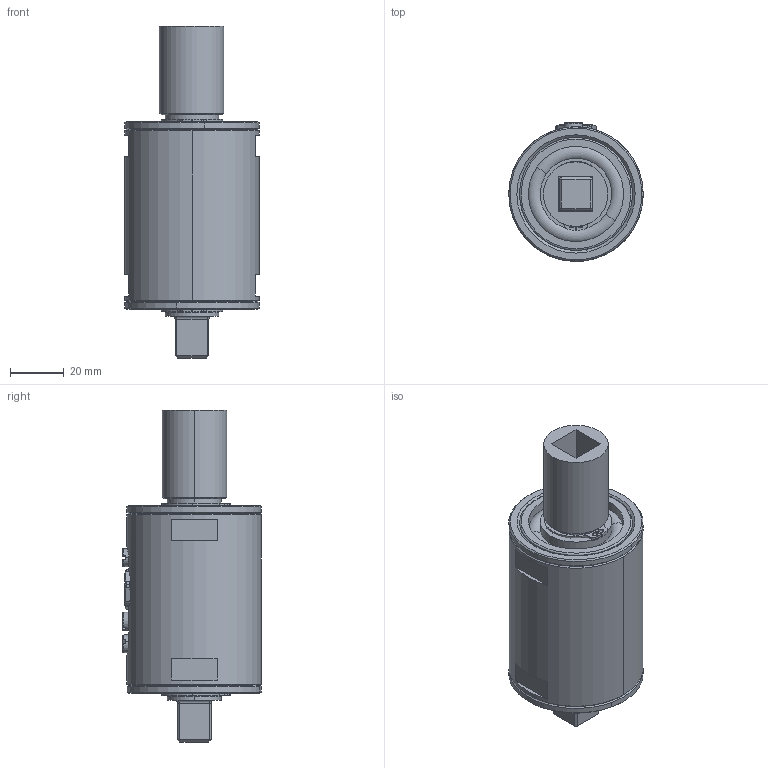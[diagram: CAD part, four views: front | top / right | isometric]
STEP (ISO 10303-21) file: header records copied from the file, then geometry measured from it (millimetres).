
FILE_DESCRIPTION (( 'STEP AP203' ), '1' );
FILE_NAME ('400006-ATS010_175Nm_20mm-Vierkant.STEP', '2017-02-20T10:23:42', ( '' ), ( '' ), 'SwSTEP 2.0', 'SolidWorks 2016', '' );
FILE_SCHEMA (( 'CONFIG_CONTROL_DESIGN' ));
Length unit declared in the file: millimetre
Products named in the file (14): 999999-ATM002_Tellerfeder_k_vorgespann41,6x25,5x0,5_Standard; 400006-ATE009-Binder-712-0416-90-05; 400006-ATM027_Lagerdeckel_20mm; DIN 988-30x42x0.5_DIN 988-30x42x0.5; 400006-ATM002-Mutter-Binder-Stecker; 400006-ATS021-PCB12_mit_Stecker_Welle 20mm; ISO 1207 - M4 x 4 --- 4S_ISO 1207 - M4 x 4 --- 4S; 400006-ATM003_Rohrgehäuse-50mm; 400006-ATM028_Welle_20mm-Vierkant; ISO 1207 - M4 x 5 --- 5S_ISO 1207 - M4 x 5 --- 5S; 400006-ATS010_175Nm_20mm-Vierkant; DIN 625 - 6004 - 12,DE,NC,12_68_DIN 625 - 6004 - Full,SI,NC,Full_68; Circlip DIN 471 - 20 x 1.2_Circlip DIN 471 - 20 x 1.2; 400006-ATM030_Vierkanthülse_1-2Zoll
Assembly tree (17 placements, depth 3):
  400006-ATS010_175Nm_20mm-Vierkant
    400006-ATM028_Welle_20mm-Vierkant
    400006-ATS021-PCB12_mit_Stecker_Welle 20mm
      400006-ATE009-Binder-712-0416-90-05
    400006-ATM003_Rohrgehäuse-50mm
    400006-ATM027_Lagerdeckel_20mm  x2
    999999-ATM002_Tellerfeder_k_vorgespann41,6x25,5x0,5_Standard
    DIN 988-30x42x0.5_DIN 988-30x42x0.5
    DIN 625 - 6004 - 12,DE,NC,12_68_DIN 625 - 6004 - Full,SI,NC,Full_68  x2
    Circlip DIN 471 - 20 x 1.2_Circlip DIN 471 - 20 x 1.2  x2
    ISO 1207 - M4 x 5 --- 5S_ISO 1207 - M4 x 5 --- 5S  x2
    ISO 1207 - M4 x 4 --- 4S_ISO 1207 - M4 x 4 --- 4S
    400006-ATM030_Vierkanthülse_1-2Zoll
    400006-ATM002-Mutter-Binder-Stecker
Bounding box: 50 x 51.6 x 123.5 mm (x, y, z)
Volume: 96053 mm3; surface area: 62798.3 mm2
Topology: 16 solids, 16 shells, 662 faces, 1594 edges, 1000 vertices
Faces by surface type: cylinder 244, plane 188, cone 166, torus 54, bspline 10
Entity records: 18781 total; most frequent: CARTESIAN_POINT 4481, DIRECTION 2779, ORIENTED_EDGE 2588, EDGE_CURVE 1294, AXIS2_PLACEMENT_3D 1144, VERTEX_POINT 820, EDGE_LOOP 612, CIRCLE 592
